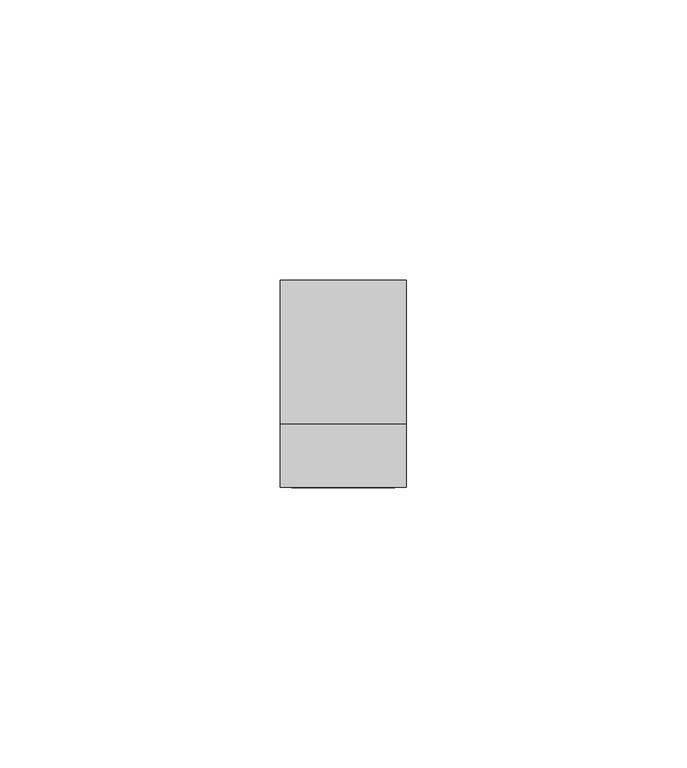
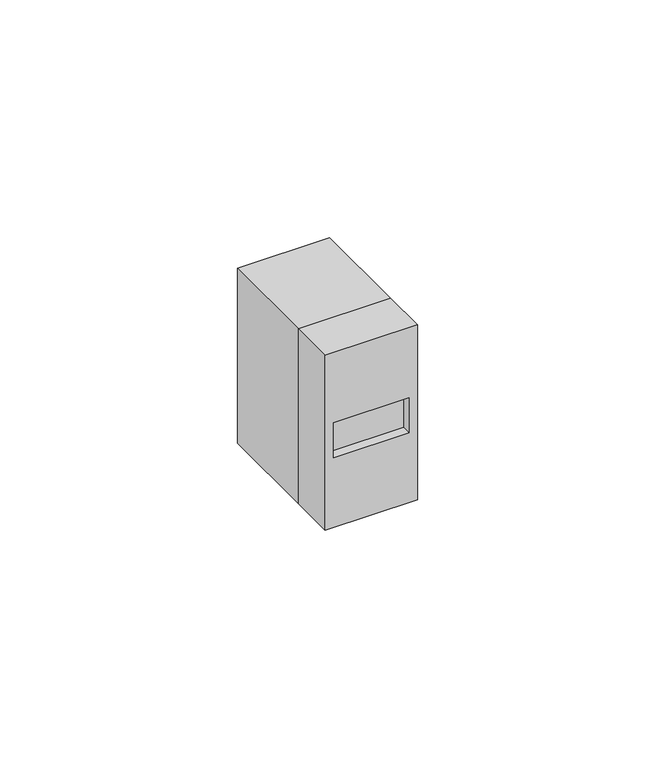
"""IFC4 building model written with IfcOpenShell, lengths in millimetres: proxy geometry."""

from ifc_helpers import new_model, si_unit, frame, origin, place, context, project, spatial, polyline, outline, extrude, source, transform, mapped, element, save


def electrical_fixtures_b4ed8b58(model_context):
    return source(origin(), model_context, "Body", "SweptSolid", [
        extrude(outline(polyline([(2.0, -34.7), (20.4, -34.7), (20.4, -43.7), (2.0, -43.7), (2.0, -34.7)])), frame((0.0, 0.0, -4.5), z_axis=(0.0, 0.0, 1.0), x_axis=(1.0, 0.0, 0.0)), (0.0, 0.0, 1.0), 9.0),
        extrude(outline(polyline([(22.45, 22.4), (22.45, 0.0), (-22.45, 0.0), (-22.45, 22.4), (22.45, 22.4)]), holes=[polyline([(4.5, 20.4), (-4.5, 20.4), (-4.5, 2.0), (4.5, 2.0), (4.5, 20.4)])]), frame((0.0, -46.0, 0.0), z_axis=(0.0, 1.0, 0.0), x_axis=(0.0, 0.0, 1.0)), (0.0, 0.0, 1.0), 11.3),
        extrude(outline(polyline([(22.4, -9.1), (22.4, -34.7), (0.0, -34.7), (0.0, -9.1), (22.4, -9.1)])), frame((0.0, 0.0, -22.45), z_axis=(0.0, 0.0, 1.0), x_axis=(1.0, 0.0, 0.0)), (0.0, 0.0, 1.0), 44.9),
    ])


if __name__ == "__main__":
    model = new_model("IFC4")
    model_context = context("Model", 3, world=origin())
    ifc_project = project(units=[si_unit("LENGTHUNIT", "METRE", prefix="MILLI")], contexts=[model_context])
    site = spatial("IfcSite", under=ifc_project)
    building = spatial("IfcBuilding", under=site)
    placement = place(None, origin())
    electrical_fixtures_shape = electrical_fixtures_b4ed8b58(model_context)
    element("IfcBuildingElementProxy", 1, Name="Electrical Fixtures", at=placement, inside=building, context=model_context, shape_type="MappedRepresentation", body=[
        mapped(electrical_fixtures_shape, transform((0.0, 0.0, 0.0), x_axis=(1.0, 0.0, 0.0), y_axis=(0.0, 1.0, 0.0), z_axis=(0.0, 0.0, 1.0))),
    ])
    save(model, "model.ifc")
